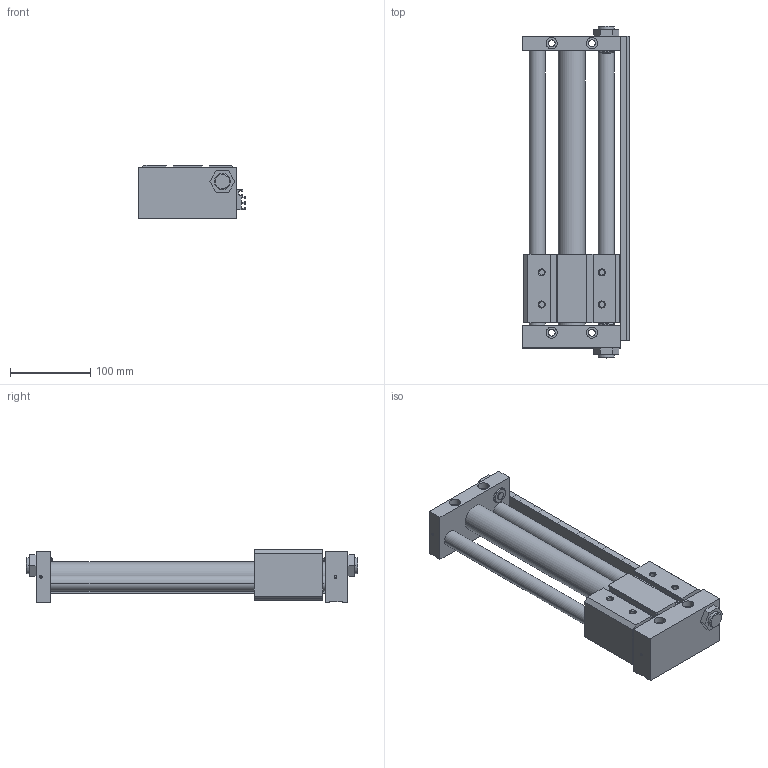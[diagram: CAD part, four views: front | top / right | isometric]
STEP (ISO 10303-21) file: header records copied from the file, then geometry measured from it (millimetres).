
FILE_DESCRIPTION((''),'2;1');
FILE_NAME('C:\Documents and Settings\Administrator\桌面\GYS\GYS32\GYSR32X250.stp','2012-03-06T20:18:34',('Administrator'),(''),'Autodesk Inventor 8','Autodesk Inventor 8','');
FILE_SCHEMA(('AUTOMOTIVE_DESIGN { 1 0 10303 214 1 1 1 1 }'));
Length unit declared in the file: millimetre
Products named in the file (3): GYSR32X250; GYS32X250; GYS32160X250
Assembly tree (2 placements, depth 2):
  GYSR32X250
    GYS32X250
    GYS32160X250
Bounding box: 132.5 x 413 x 66 mm (x, y, z)
Volume: 1402630.5 mm3; surface area: 207600.2 mm2
Topology: 2 solids, 2 shells, 291 faces, 770 edges, 504 vertices
Faces by surface type: plane 161, cylinder 96, cone 28, bspline 6
Entity records: 9200 total; most frequent: CARTESIAN_POINT 1644, DIRECTION 1598, ORIENTED_EDGE 1540, EDGE_CURVE 770, AXIS2_PLACEMENT_3D 538, VECTOR 522, LINE 522, VERTEX_POINT 504
